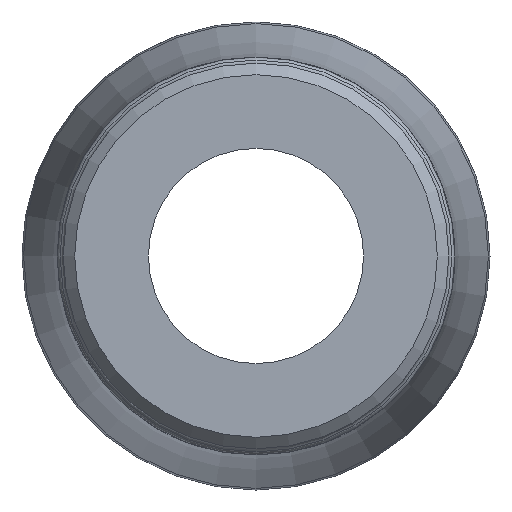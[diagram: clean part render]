
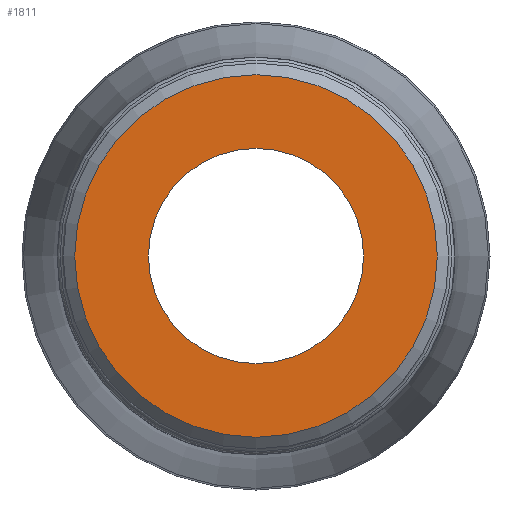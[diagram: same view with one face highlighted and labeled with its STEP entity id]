
A CAD part, left-side view. The second image highlights one B-rep face of the part: STEP entity #1811.
In plain terms, the highlighted planar face has unit normal (-1, 0, 0).
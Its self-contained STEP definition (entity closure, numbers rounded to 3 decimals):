
#193=FACE_BOUND('',#400,.T.);
#206=PLANE('',#2002);
#288=FACE_OUTER_BOUND('',#399,.T.);
#399=EDGE_LOOP('',(#1410));
#400=EDGE_LOOP('',(#1411,#1412));
#721=CIRCLE('',#1998,22.467);
#724=CIRCLE('',#2003,13.333);
#725=CIRCLE('',#2004,13.333);
#855=VERTEX_POINT('',#3161);
#858=VERTEX_POINT('',#3171);
#859=VERTEX_POINT('',#3172);
#1057=EDGE_CURVE('',#855,#855,#721,.T.);
#1061=EDGE_CURVE('',#858,#859,#724,.T.);
#1062=EDGE_CURVE('',#859,#858,#725,.T.);
#1410=ORIENTED_EDGE('',*,*,#1057,.F.);
#1411=ORIENTED_EDGE('',*,*,#1061,.T.);
#1412=ORIENTED_EDGE('',*,*,#1062,.T.);
#1811=ADVANCED_FACE('',(#288,#193),#206,.T.);
#1998=AXIS2_PLACEMENT_3D('',#3163,#2342,#2343);
#2002=AXIS2_PLACEMENT_3D('',#3170,#2351,#2352);
#2003=AXIS2_PLACEMENT_3D('',#3173,#2353,#2354);
#2004=AXIS2_PLACEMENT_3D('',#3174,#2355,#2356);
#2342=DIRECTION('center_axis',(1.,0.,0.));
#2343=DIRECTION('ref_axis',(0.,-1.,0.));
#2351=DIRECTION('center_axis',(-1.,0.,0.));
#2352=DIRECTION('ref_axis',(0.,0.,1.));
#2353=DIRECTION('center_axis',(1.,0.,0.));
#2354=DIRECTION('ref_axis',(0.,0.,-1.));
#2355=DIRECTION('center_axis',(1.,0.,0.));
#2356=DIRECTION('ref_axis',(0.,0.,-1.));
#3161=CARTESIAN_POINT('',(0.,22.467,0.));
#3163=CARTESIAN_POINT('Origin',(0.,0.,0.));
#3170=CARTESIAN_POINT('Origin',(0.,23.902,0.));
#3171=CARTESIAN_POINT('',(0.,13.333,0.));
#3172=CARTESIAN_POINT('',(0.,-13.333,0.));
#3173=CARTESIAN_POINT('Origin',(0.,0.,0.));
#3174=CARTESIAN_POINT('Origin',(0.,0.,0.));
